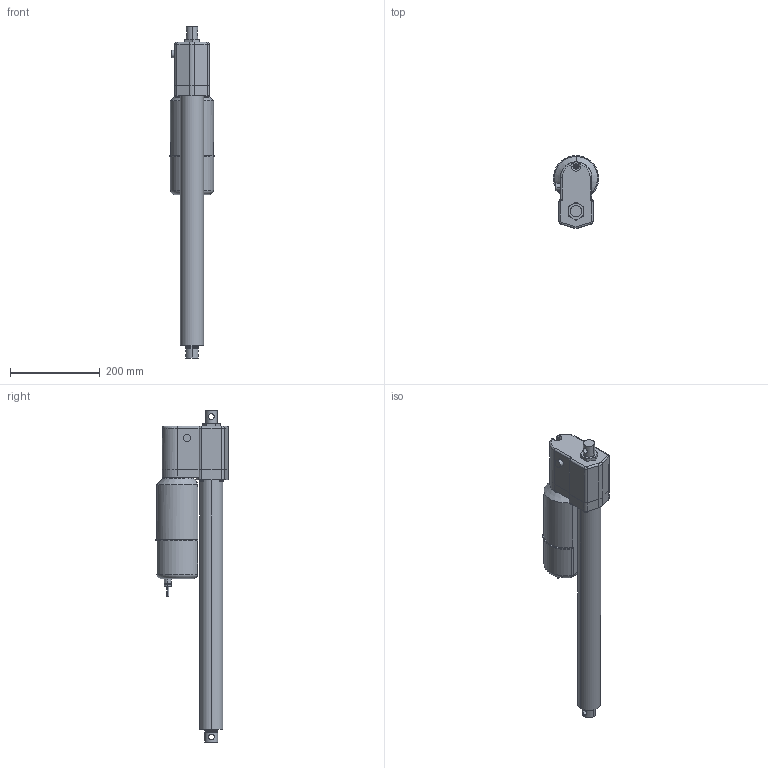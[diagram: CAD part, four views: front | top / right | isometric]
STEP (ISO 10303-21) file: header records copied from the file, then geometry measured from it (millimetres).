
FILE_DESCRIPTION (( 'STEP AP214' ), '1' );
FILE_NAME ('A42-05B5-16M0NPO-tollo.step', '2020-04-06T19:05:11', ( '' ), ( '' ), 'SwSTEP 2.0', 'SolidWorks 2010', '' );
FILE_SCHEMA (( 'AUTOMOTIVE_DESIGN' ));
Length unit declared in the file: millimetre
Products named in the file (7): Electrak-LA5-Motor-A42-05B5-16M0NPO-tollo_Electrak-LA5-Motor-A42-05B5-16M0NPO-tollo; Electrak-LA5-Rear-A42-05B5-16M0NPO-tollo_Electrak-LA5-Rear-A42-05B5-16M0NPO-tollo; Electrak-LA5-Tube-A42-05B5-16M0NPO-tollo_Electrak-LA5-Tube-A42-05B5-16M0NPO-tollo; Electrak-LA5-Rod-A42-05B5-16M0NPO-tollo_Electrak-LA5-Rod-A42-05B5-16M0NPO-tollo; Screw-MFX-H-M5-A42-05B5-16M0NPO-tollo_Screw-MFX-H-M5-A42-05B5-16M0NPO-tollo; Screw-M6S-M5-A42-05B5-16M0NPO-tollo_Screw-M6S-M5-A42-05B5-16M0NPO-tollo; A42-05B5-16M0NPO-tollo
Assembly tree (9 placements, depth 2):
  A42-05B5-16M0NPO-tollo
    Electrak-LA5-Tube-A42-05B5-16M0NPO-tollo_Electrak-LA5-Tube-A42-05B5-16M0NPO-tollo
    Screw-MFX-H-M5-A42-05B5-16M0NPO-tollo_Screw-MFX-H-M5-A42-05B5-16M0NPO-tollo
    Electrak-LA5-Motor-A42-05B5-16M0NPO-tollo_Electrak-LA5-Motor-A42-05B5-16M0NPO-tollo
    Screw-M6S-M5-A42-05B5-16M0NPO-tollo_Screw-M6S-M5-A42-05B5-16M0NPO-tollo  x4
    Electrak-LA5-Rod-A42-05B5-16M0NPO-tollo_Electrak-LA5-Rod-A42-05B5-16M0NPO-tollo
    Electrak-LA5-Rear-A42-05B5-16M0NPO-tollo_Electrak-LA5-Rear-A42-05B5-16M0NPO-tollo
Bounding box: 100.99 x 162.5 x 738.8 mm (x, y, z)
Volume: 3805165.5 mm3; surface area: 358891.8 mm2
Topology: 9 solids, 9 shells, 311 faces, 723 edges, 449 vertices
Faces by surface type: cylinder 136, plane 96, cone 58, torus 16, bspline 3, sphere 2
Entity records: 7552 total; most frequent: CARTESIAN_POINT 2023, DIRECTION 1143, ORIENTED_EDGE 1006, EDGE_CURVE 503, AXIS2_PLACEMENT_3D 462, VERTEX_POINT 314, EDGE_LOOP 251, CIRCLE 235
